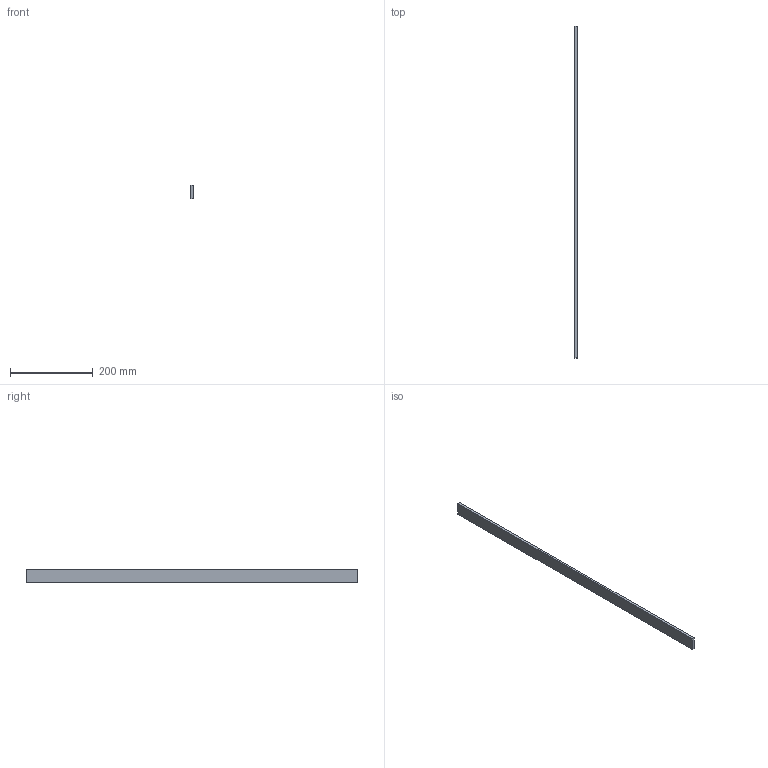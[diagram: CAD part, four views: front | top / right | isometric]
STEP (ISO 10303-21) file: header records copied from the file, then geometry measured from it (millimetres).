
FILE_DESCRIPTION(('Open CASCADE Model'),'2;1');
FILE_NAME('Open CASCADE Shape Model','2026-10-19T10:09:20',('Author'),( 'Open CASCADE'),'Open CASCADE STEP processor 8.0','Open CASCADE 8.0' ,'Unknown');
FILE_SCHEMA(('AUTOMOTIVE_DESIGN { 1 0 10303 214 1 1 1 1 }'));
Length unit declared in the file: millimetre
Products named in the file (1): MG06_ESP_2_P05 80
Bounding box: 6 x 800 x 31.5 mm (x, y, z)
Volume: 151200 mm3; surface area: 60378 mm2
Topology: 1 solids, 1 shells, 6 faces, 12 edges, 8 vertices
Faces by surface type: plane 6
Entity records: 322 total; most frequent: CARTESIAN_POINT 51, DIRECTION 50, LINE 36, VECTOR 36, ORIENTED_EDGE 24, PCURVE 24, DEFINITIONAL_REPRESENTATION 24, EDGE_CURVE 12
